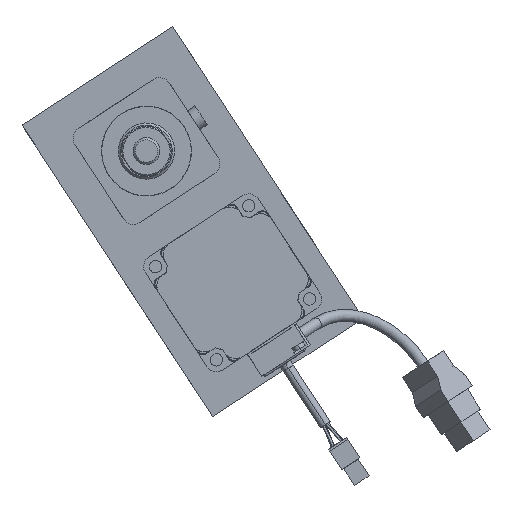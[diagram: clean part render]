
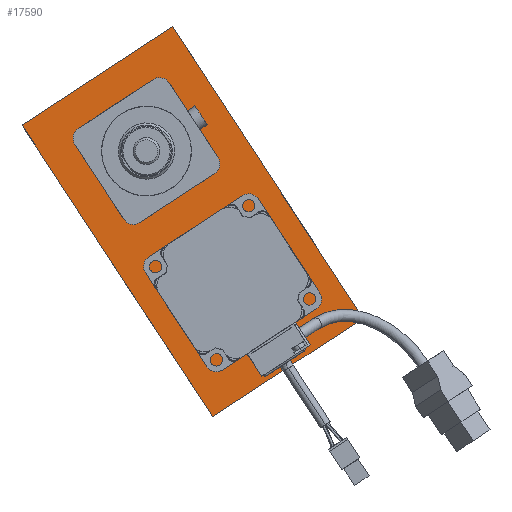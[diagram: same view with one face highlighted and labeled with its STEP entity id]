
A CAD part, front view. The second image highlights one B-rep face of the part: STEP entity #17590.
In plain terms, the highlighted planar face has unit normal (0, -1, 0) as drawn and (0, 0, 1) by its records, which use the part's own axes.
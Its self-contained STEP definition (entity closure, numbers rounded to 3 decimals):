
#23 = CARTESIAN_POINT ( 'NONE',  ( 25., 20., -20. ) ) ;
#66 = VECTOR ( 'NONE', #18175, 1000. ) ;
#188 = DIRECTION ( 'NONE',  ( 0., 0., -1. ) ) ;
#626 = ORIENTED_EDGE ( 'NONE', *, *, #2002, .T. ) ;
#858 = DIRECTION ( 'NONE',  ( 1., 0., 0. ) ) ;
#1063 = ORIENTED_EDGE ( 'NONE', *, *, #15632, .F. ) ;
#1272 = LINE ( 'NONE', #19137, #7831 ) ;
#1466 = EDGE_CURVE ( 'NONE', #16180, #19568, #11804, .T. ) ;
#1503 = CIRCLE ( 'NONE', #11803, 14.684 ) ;
#1779 = CARTESIAN_POINT ( 'NONE',  ( 0., 0., -20. ) ) ;
#1803 = CARTESIAN_POINT ( 'NONE',  ( -25., 25., -20. ) ) ;
#1996 = AXIS2_PLACEMENT_3D ( 'NONE', #16959, #188, #7702 ) ;
#2002 = EDGE_CURVE ( 'NONE', #17159, #11245, #10335, .T. ) ;
#2773 = CARTESIAN_POINT ( 'NONE',  ( -40., -40., -20. ) ) ;
#2931 = EDGE_LOOP ( 'NONE', ( #3395, #8651 ) ) ;
#2962 = CARTESIAN_POINT ( 'NONE',  ( -20., 25., -20. ) ) ;
#2996 = CARTESIAN_POINT ( 'NONE',  ( -40., 115., -20. ) ) ;
#3000 = DIRECTION ( 'NONE',  ( 0., 0., 1. ) ) ;
#3248 = VERTEX_POINT ( 'NONE', #2962 ) ;
#3395 = ORIENTED_EDGE ( 'NONE', *, *, #14801, .F. ) ;
#3547 = CARTESIAN_POINT ( 'NONE',  ( 0., 70., -20. ) ) ;
#3669 = LINE ( 'NONE', #2773, #8774 ) ;
#3732 = DIRECTION ( 'NONE',  ( -1., 0., 0. ) ) ;
#3869 = ORIENTED_EDGE ( 'NONE', *, *, #5948, .T. ) ;
#3887 = VERTEX_POINT ( 'NONE', #6550 ) ;
#4077 = DIRECTION ( 'NONE',  ( 0., 0., 1. ) ) ;
#4111 = FACE_BOUND ( 'NONE', #2931, .T. ) ;
#4430 = LINE ( 'NONE', #10547, #66 ) ;
#4597 = VERTEX_POINT ( 'NONE', #7784 ) ;
#4648 = EDGE_CURVE ( 'NONE', #3248, #13378, #6576, .T. ) ;
#4851 = CIRCLE ( 'NONE', #19652, 5. ) ;
#4894 = EDGE_LOOP ( 'NONE', ( #7973, #13770, #3869, #8089, #15684, #8983, #14929, #626 ) ) ;
#4954 = CIRCLE ( 'NONE', #10096, 14.684 ) ;
#5157 = DIRECTION ( 'NONE',  ( 1., 0., 0. ) ) ;
#5261 = CARTESIAN_POINT ( 'NONE',  ( 25., -25., -20. ) ) ;
#5383 = CARTESIAN_POINT ( 'NONE',  ( 20., 25., -20. ) ) ;
#5636 = DIRECTION ( 'NONE',  ( 1., 0., 0. ) ) ;
#5948 = EDGE_CURVE ( 'NONE', #13378, #9226, #4851, .T. ) ;
#6165 = CARTESIAN_POINT ( 'NONE',  ( 25., 25., -20. ) ) ;
#6261 = LINE ( 'NONE', #19698, #17870 ) ;
#6372 = ORIENTED_EDGE ( 'NONE', *, *, #18339, .F. ) ;
#6425 = EDGE_CURVE ( 'NONE', #9226, #16180, #8121, .T. ) ;
#6550 = CARTESIAN_POINT ( 'NONE',  ( 40., 115., -20. ) ) ;
#6576 = LINE ( 'NONE', #6165, #11444 ) ;
#6606 = AXIS2_PLACEMENT_3D ( 'NONE', #10956, #11086, #15653 ) ;
#6691 = VECTOR ( 'NONE', #18590, 1000. ) ;
#7150 = VECTOR ( 'NONE', #11428, 1000. ) ;
#7533 = DIRECTION ( 'NONE',  ( 1., 0., 0. ) ) ;
#7588 = EDGE_CURVE ( 'NONE', #16272, #17159, #7829, .T. ) ;
#7702 = DIRECTION ( 'NONE',  ( 1., 0., 0. ) ) ;
#7784 = CARTESIAN_POINT ( 'NONE',  ( -14.684, 70., -20. ) ) ;
#7829 = CIRCLE ( 'NONE', #15921, 5. ) ;
#7831 = VECTOR ( 'NONE', #3732, 1000. ) ;
#7934 = EDGE_CURVE ( 'NONE', #4597, #9336, #1503, .T. ) ;
#7973 = ORIENTED_EDGE ( 'NONE', *, *, #18975, .T. ) ;
#8089 = ORIENTED_EDGE ( 'NONE', *, *, #6425, .T. ) ;
#8121 = LINE ( 'NONE', #5261, #7150 ) ;
#8333 = CARTESIAN_POINT ( 'NONE',  ( -20., -20., -20. ) ) ;
#8651 = ORIENTED_EDGE ( 'NONE', *, *, #7934, .F. ) ;
#8692 = CARTESIAN_POINT ( 'NONE',  ( -40., -40., -20. ) ) ;
#8774 = VECTOR ( 'NONE', #18354, 1000. ) ;
#8983 = ORIENTED_EDGE ( 'NONE', *, *, #15402, .T. ) ;
#9088 = VERTEX_POINT ( 'NONE', #12077 ) ;
#9132 = EDGE_CURVE ( 'NONE', #16223, #19507, #3669, .T. ) ;
#9226 = VERTEX_POINT ( 'NONE', #23 ) ;
#9336 = VERTEX_POINT ( 'NONE', #11129 ) ;
#10096 = AXIS2_PLACEMENT_3D ( 'NONE', #3547, #14586, #17554 ) ;
#10187 = CARTESIAN_POINT ( 'NONE',  ( 25., -20., -20. ) ) ;
#10335 = LINE ( 'NONE', #1803, #6691 ) ;
#10408 = FACE_OUTER_BOUND ( 'NONE', #14620, .T. ) ;
#10547 = CARTESIAN_POINT ( 'NONE',  ( 40., -40., -20. ) ) ;
#10956 = CARTESIAN_POINT ( 'NONE',  ( 20., -20., -20. ) ) ;
#11047 = DIRECTION ( 'NONE',  ( 1., 0., 0. ) ) ;
#11086 = DIRECTION ( 'NONE',  ( 0., 0., -1. ) ) ;
#11129 = CARTESIAN_POINT ( 'NONE',  ( 14.684, 70., -20. ) ) ;
#11245 = VERTEX_POINT ( 'NONE', #15359 ) ;
#11428 = DIRECTION ( 'NONE',  ( 0., -1., 0. ) ) ;
#11444 = VECTOR ( 'NONE', #11047, 1000. ) ;
#11803 = AXIS2_PLACEMENT_3D ( 'NONE', #19412, #4077, #5636 ) ;
#11804 = CIRCLE ( 'NONE', #6606, 5. ) ;
#11943 = CARTESIAN_POINT ( 'NONE',  ( -20., -25., -20. ) ) ;
#12071 = ORIENTED_EDGE ( 'NONE', *, *, #18265, .F. ) ;
#12077 = CARTESIAN_POINT ( 'NONE',  ( 40., -40., -20. ) ) ;
#12837 = FACE_BOUND ( 'NONE', #4894, .T. ) ;
#13060 = CARTESIAN_POINT ( 'NONE',  ( -25., -20., -20. ) ) ;
#13378 = VERTEX_POINT ( 'NONE', #5383 ) ;
#13766 = CARTESIAN_POINT ( 'NONE',  ( 20., -25., -20. ) ) ;
#13770 = ORIENTED_EDGE ( 'NONE', *, *, #4648, .T. ) ;
#14008 = VECTOR ( 'NONE', #7533, 1000. ) ;
#14247 = ORIENTED_EDGE ( 'NONE', *, *, #9132, .F. ) ;
#14550 = CARTESIAN_POINT ( 'NONE',  ( 20., 20., -20. ) ) ;
#14586 = DIRECTION ( 'NONE',  ( 0., 0., 1. ) ) ;
#14620 = EDGE_LOOP ( 'NONE', ( #1063, #6372, #14247, #12071 ) ) ;
#14707 = CIRCLE ( 'NONE', #1996, 5. ) ;
#14743 = DIRECTION ( 'NONE',  ( 0., 0., -1. ) ) ;
#14801 = EDGE_CURVE ( 'NONE', #9336, #4597, #4954, .T. ) ;
#14929 = ORIENTED_EDGE ( 'NONE', *, *, #7588, .T. ) ;
#15241 = CARTESIAN_POINT ( 'NONE',  ( 40., 115., -20. ) ) ;
#15359 = CARTESIAN_POINT ( 'NONE',  ( -25., 20., -20. ) ) ;
#15402 = EDGE_CURVE ( 'NONE', #19568, #16272, #1272, .T. ) ;
#15632 = EDGE_CURVE ( 'NONE', #3887, #9088, #4430, .T. ) ;
#15653 = DIRECTION ( 'NONE',  ( 1., 0., 0. ) ) ;
#15684 = ORIENTED_EDGE ( 'NONE', *, *, #1466, .T. ) ;
#15921 = AXIS2_PLACEMENT_3D ( 'NONE', #8333, #16079, #5157 ) ;
#16079 = DIRECTION ( 'NONE',  ( 0., 0., -1. ) ) ;
#16180 = VERTEX_POINT ( 'NONE', #10187 ) ;
#16223 = VERTEX_POINT ( 'NONE', #8692 ) ;
#16272 = VERTEX_POINT ( 'NONE', #11943 ) ;
#16939 = DIRECTION ( 'NONE',  ( 1., 0., 0. ) ) ;
#16959 = CARTESIAN_POINT ( 'NONE',  ( -20., 20., -20. ) ) ;
#17159 = VERTEX_POINT ( 'NONE', #13060 ) ;
#17209 = PLANE ( 'NONE',  #20077 ) ;
#17554 = DIRECTION ( 'NONE',  ( 1., 0., 0. ) ) ;
#17590 = ADVANCED_FACE ( 'NONE', ( #4111, #12837, #10408 ), #17209, .T. ) ;
#17870 = VECTOR ( 'NONE', #19762, 1000. ) ;
#18121 = LINE ( 'NONE', #15241, #14008 ) ;
#18175 = DIRECTION ( 'NONE',  ( 0., -1., 0. ) ) ;
#18265 = EDGE_CURVE ( 'NONE', #9088, #16223, #6261, .T. ) ;
#18339 = EDGE_CURVE ( 'NONE', #19507, #3887, #18121, .T. ) ;
#18354 = DIRECTION ( 'NONE',  ( 0., 1., 0. ) ) ;
#18590 = DIRECTION ( 'NONE',  ( 0., 1., 0. ) ) ;
#18975 = EDGE_CURVE ( 'NONE', #11245, #3248, #14707, .T. ) ;
#19137 = CARTESIAN_POINT ( 'NONE',  ( -25., -25., -20. ) ) ;
#19412 = CARTESIAN_POINT ( 'NONE',  ( 0., 70., -20. ) ) ;
#19507 = VERTEX_POINT ( 'NONE', #2996 ) ;
#19568 = VERTEX_POINT ( 'NONE', #13766 ) ;
#19652 = AXIS2_PLACEMENT_3D ( 'NONE', #14550, #14743, #858 ) ;
#19698 = CARTESIAN_POINT ( 'NONE',  ( 40., -40., -20. ) ) ;
#19762 = DIRECTION ( 'NONE',  ( -1., 0., 0. ) ) ;
#20077 = AXIS2_PLACEMENT_3D ( 'NONE', #1779, #3000, #16939 ) ;
